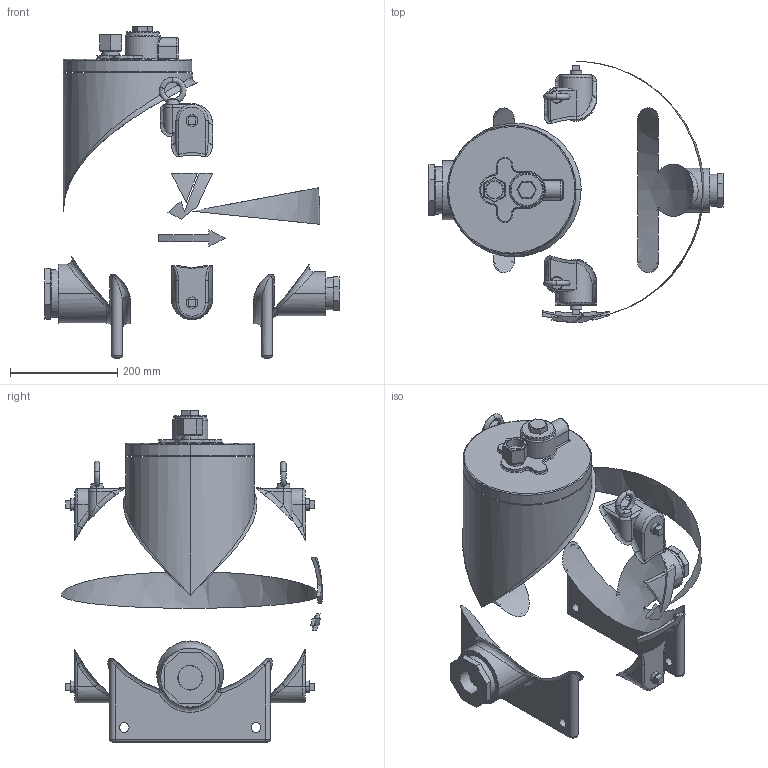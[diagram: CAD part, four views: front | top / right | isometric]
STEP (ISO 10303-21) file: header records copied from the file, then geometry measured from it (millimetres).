
FILE_DESCRIPTION( (''), '2;1');
FILE_NAME ('PC1027.9568.PF-7000 40A_16940.stp','2025-07-28T17:12:27',(''),(''),'spGate 19.8.4 (****-****-****-****)','','');
FILE_SCHEMA (('AUTOMOTIVE_DESIGN'));
Length unit declared in the file: millimetre
Products named in the file (6): Assembly; PF-7000 80A; アイボルト M12; Plug R 1／2; R3-R1／2 Bush; R2-R1／2 Bush
Assembly tree (9 placements, depth 2):
  Assembly
    PF-7000 80A
    アイボルト M12  x2
    Plug R 1／2  x4
    R3-R1／2 Bush
    R2-R1／2 Bush
Bounding box: 549 x 487 x 619.5 mm (x, y, z)
Volume: 7980574.2 mm3; surface area: 819020.3 mm2
Topology: 19 solids, 19 shells, 394 faces, 878 edges, 541 vertices
Faces by surface type: plane 158, bspline 112, cylinder 101, sphere 23
Entity records: 39309 total; most frequent: CARTESIAN_POINT 25344, ORIENTED_EDGE 1558, DIRECTION 1503, COLOUR_RGB 1126, PRESENTATION_STYLE_ASSIGNMENT 1126, STYLED_ITEM 1126, EDGE_CURVE 779, DRAUGHTING_PRE_DEFINED_CURVE_FONT 779
